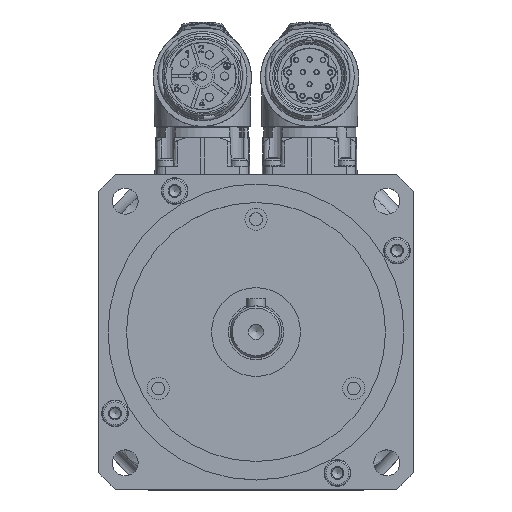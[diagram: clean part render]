
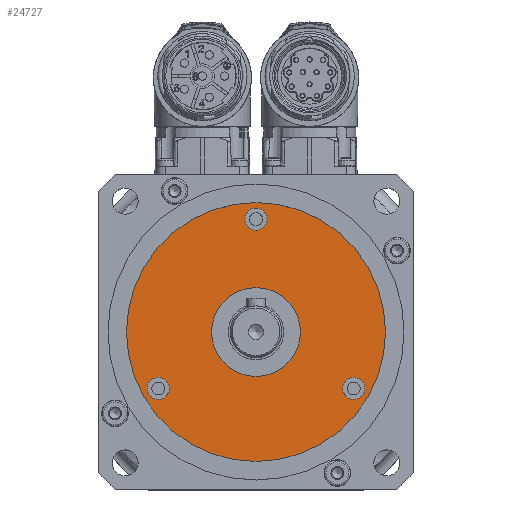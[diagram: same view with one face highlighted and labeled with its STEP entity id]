
A CAD part, top view. The second image highlights one B-rep face of the part: STEP entity #24727.
In plain terms, the highlighted planar face has unit normal (0, 0, 1).
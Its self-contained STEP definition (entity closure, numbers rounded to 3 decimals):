
#2559=FACE_BOUND('',#9071,.T.);
#2560=FACE_BOUND('',#9072,.T.);
#2561=FACE_BOUND('',#9073,.T.);
#2562=FACE_BOUND('',#9074,.T.);
#2563=FACE_BOUND('',#9075,.T.);
#3104=PLANE('',#27280);
#9071=EDGE_LOOP('',(#23178));
#9072=EDGE_LOOP('',(#23179));
#9073=EDGE_LOOP('',(#23180));
#9074=EDGE_LOOP('',(#23181));
#9075=EDGE_LOOP('',(#23182));
#10155=CIRCLE('',#27210,3.);
#10159=CIRCLE('',#27217,3.);
#10163=CIRCLE('',#27224,3.);
#10165=CIRCLE('',#27228,12.);
#10196=CIRCLE('',#27281,35.);
#13306=VERTEX_POINT('',#51153);
#13310=VERTEX_POINT('',#51164);
#13314=VERTEX_POINT('',#51175);
#13316=VERTEX_POINT('',#51181);
#13354=VERTEX_POINT('',#51283);
#16585=EDGE_CURVE('',#13306,#13306,#10155,.T.);
#16589=EDGE_CURVE('',#13310,#13310,#10159,.T.);
#16593=EDGE_CURVE('',#13314,#13314,#10163,.T.);
#16595=EDGE_CURVE('',#13316,#13316,#10165,.T.);
#16637=EDGE_CURVE('',#13354,#13354,#10196,.T.);
#23178=ORIENTED_EDGE('',*,*,#16585,.T.);
#23179=ORIENTED_EDGE('',*,*,#16589,.T.);
#23180=ORIENTED_EDGE('',*,*,#16593,.T.);
#23181=ORIENTED_EDGE('',*,*,#16595,.T.);
#23182=ORIENTED_EDGE('',*,*,#16637,.F.);
#24727=ADVANCED_FACE('',(#2559,#2560,#2561,#2562,#2563),#3104,.F.);
#27210=AXIS2_PLACEMENT_3D('',#51154,#33234,#33235);
#27217=AXIS2_PLACEMENT_3D('',#51165,#33248,#33249);
#27224=AXIS2_PLACEMENT_3D('',#51176,#33262,#33263);
#27228=AXIS2_PLACEMENT_3D('',#51182,#33270,#33271);
#27280=AXIS2_PLACEMENT_3D('',#51282,#33385,#33386);
#27281=AXIS2_PLACEMENT_3D('',#51284,#33387,#33388);
#33234=DIRECTION('center_axis',(0.,0.,-1.));
#33235=DIRECTION('ref_axis',(-0.5,0.866,0.));
#33248=DIRECTION('center_axis',(0.,0.,-1.));
#33249=DIRECTION('ref_axis',(-0.5,-0.866,0.));
#33262=DIRECTION('center_axis',(0.,0.,-1.));
#33263=DIRECTION('ref_axis',(1.,0.,0.));
#33270=DIRECTION('center_axis',(0.,0.,-1.));
#33271=DIRECTION('ref_axis',(-1.,0.,0.));
#33385=DIRECTION('center_axis',(0.,0.,-1.));
#33386=DIRECTION('ref_axis',(-1.,0.,0.));
#33387=DIRECTION('center_axis',(0.,0.,-1.));
#33388=DIRECTION('ref_axis',(-1.,0.,0.));
#51153=CARTESIAN_POINT('',(-27.914,-12.652,10.5));
#51154=CARTESIAN_POINT('Origin',(-26.414,-15.25,10.5));
#51164=CARTESIAN_POINT('',(24.914,-17.848,10.5));
#51165=CARTESIAN_POINT('Origin',(26.414,-15.25,10.5));
#51175=CARTESIAN_POINT('',(3.,30.5,10.5));
#51176=CARTESIAN_POINT('Origin',(0.,30.5,10.5));
#51181=CARTESIAN_POINT('',(12.,0.,10.5));
#51182=CARTESIAN_POINT('Origin',(0.,0.,10.5));
#51282=CARTESIAN_POINT('Origin',(0.,0.,
10.5));
#51283=CARTESIAN_POINT('',(35.,0.,10.5));
#51284=CARTESIAN_POINT('Origin',(0.,0.,10.5));
